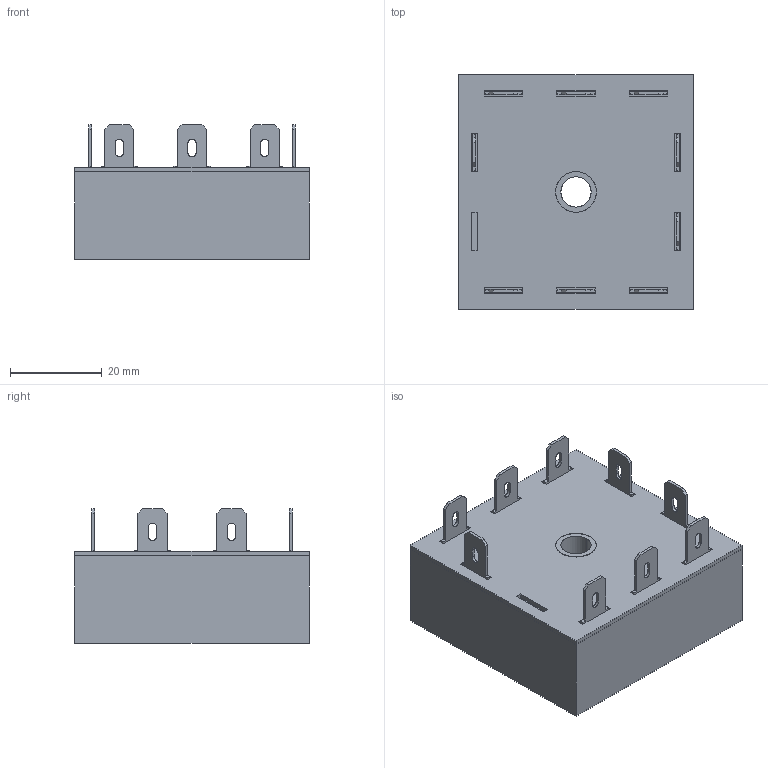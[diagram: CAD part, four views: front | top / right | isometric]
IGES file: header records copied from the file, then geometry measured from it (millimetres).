
Start section: SolidWorks IGES file using analytic representation for surfaces
Global section: file name: C:\Documents and Settings\Joshua\Desktop\eric\RT\THR\RT.IGS; native system: SolidWorks 2007; preprocessor: SolidWorks 2007; author: Joshua; date: 140205.202344; units: millimetre
Bounding box: 51.31 x 51.31 x 29.46 mm (x, y, z)
Surface area: 23300.9 mm2 (no closed solid volume)
Topology: 0 solids, 0 shells, 280 faces, 2256 edges, 2256 vertices
Faces by surface type: bspline 256, revolution 24
